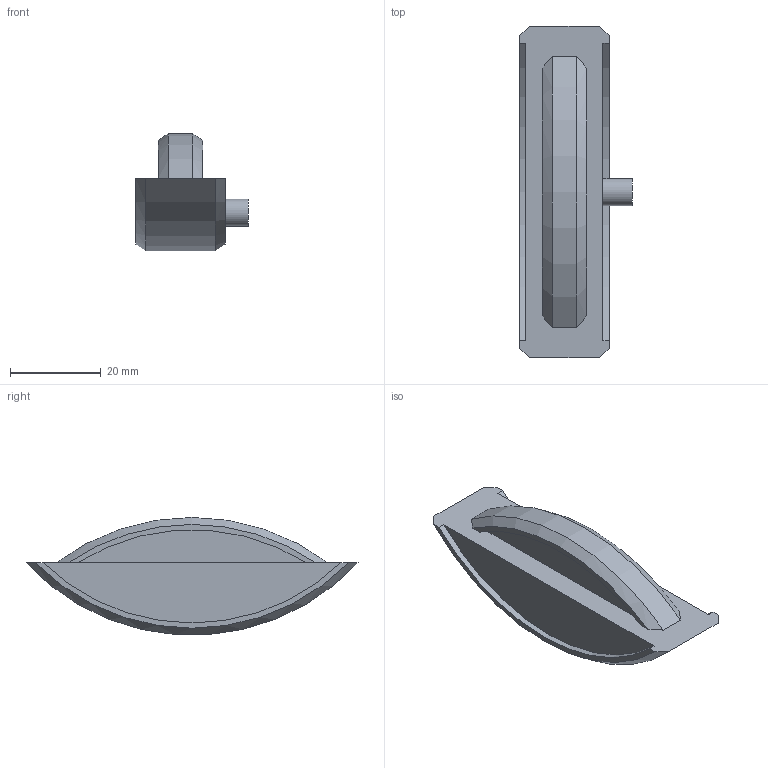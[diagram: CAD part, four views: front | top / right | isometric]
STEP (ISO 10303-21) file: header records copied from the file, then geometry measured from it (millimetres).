
FILE_DESCRIPTION(/* description */ (''),/* implementation_level */ '2;1');
FILE_NAME(/* name */ 'LC P-16x17 mit 6mm Bohrung_P-10.stp',/* time_stamp */ '2024-12-19T16:37:45+01:00',/* author */ ('simond'),/* organization */ (''),/* preprocessor_version */ 'ST-DEVELOPER v19.2',/* originating_system */ 'Autodesk Inventor 2023',/* authorisation */ '');
FILE_SCHEMA (('AUTOMOTIVE_DESIGN { 1 0 10303 214 3 1 1 }'));
Length unit declared in the file: millimetre
Products named in the file (3): LC P-16x17 mit 6mm Bohrung_P-10; P-14 Profilnut; P-10 Profilnut ohne Zugangsbohrung
Assembly tree (2 placements, depth 2):
  LC P-16x17 mit 6mm Bohrung_P-10
    P-14 Profilnut
    P-10 Profilnut ohne Zugangsbohrung
Bounding box: 24.9 x 73.32 x 25.86 mm (x, y, z)
Volume: 17381.5 mm3; surface area: 6546 mm2
Topology: 2 solids, 2 shells, 22 faces, 51 edges, 34 vertices
Faces by surface type: plane 11, cylinder 7, cone 4
Full cylindrical faces by diameter (mm): 6 x1
Entity records: 741 total; most frequent: CARTESIAN_POINT 128, DIRECTION 115, ORIENTED_EDGE 102, EDGE_CURVE 51, AXIS2_PLACEMENT_3D 45, VERTEX_POINT 34, LINE 25, VECTOR 25
